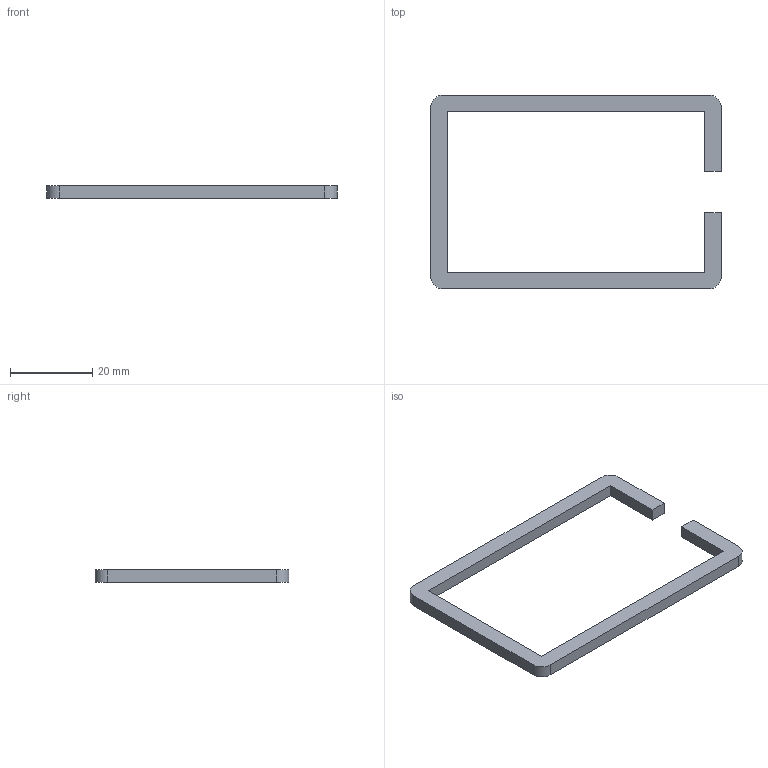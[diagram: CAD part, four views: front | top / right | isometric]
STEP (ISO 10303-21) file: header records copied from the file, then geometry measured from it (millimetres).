
FILE_DESCRIPTION(('Open CASCADE Model'),'2;1');
FILE_NAME('Open CASCADE Shape Model','2026-09-16T15:01:02',('Author'),( 'Open CASCADE'),'Open CASCADE STEP processor 7.7','Open CASCADE 7.7' ,'Unknown');
FILE_SCHEMA(('AUTOMOTIVE_DESIGN { 1 0 10303 214 1 1 1 1 }'));
Length unit declared in the file: millimetre
Products named in the file (1): COMPOUND
Bounding box: 70.6 x 47.1 x 3 mm (x, y, z)
Volume: 2489.6 mm3; surface area: 2924.7 mm2
Topology: 1 solids, 1 shells, 18 faces, 48 edges, 32 vertices
Faces by surface type: plane 14, cylinder 4
Entity records: 1158 total; most frequent: CARTESIAN_POINT 231, DIRECTION 154, ORIENTED_EDGE 96, PCURVE 96, DEFINITIONAL_REPRESENTATION 96, LINE 92, VECTOR 92, EDGE_CURVE 48
